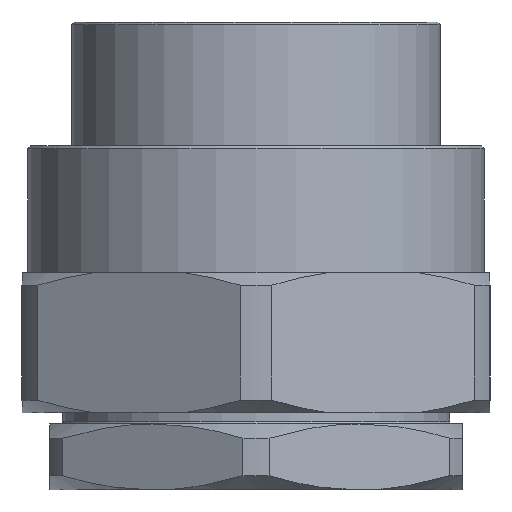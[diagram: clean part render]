
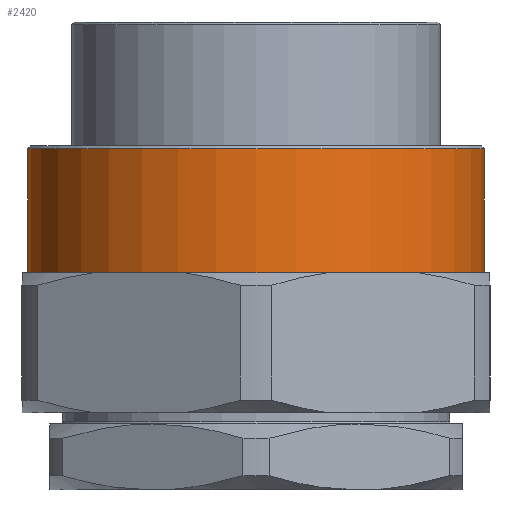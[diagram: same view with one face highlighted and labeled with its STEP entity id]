
A CAD part, front view. The second image highlights one B-rep face of the part: STEP entity #2420.
In plain terms, the highlighted cylindrical face has radius 41.5 mm (diameter 83 mm), a full revolution.
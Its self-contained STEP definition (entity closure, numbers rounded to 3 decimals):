
#1507=CARTESIAN_POINT('',(41.5,0.,39.5));
#1508=VERTEX_POINT('',#1507);
#1509=CARTESIAN_POINT('',(0.,0.,39.5));
#1510=DIRECTION('',(0.0,0.0,1.0));
#1511=DIRECTION('',(-1.0,0.0,0.0));
#1512=AXIS2_PLACEMENT_3D('',#1509,#1510,#1511);
#1513=CIRCLE('',#1512,41.5);
#1514=EDGE_CURVE('',#1508,#1508,#1513,.T.);
#2394=CARTESIAN_POINT('',(41.5,0.,62.));
#2395=VERTEX_POINT('',#2394);
#2396=CARTESIAN_POINT('',(0.,0.,62.));
#2397=DIRECTION('',(0.0,0.0,1.0));
#2398=DIRECTION('',(-1.0,0.0,0.0));
#2399=AXIS2_PLACEMENT_3D('',#2396,#2397,#2398);
#2400=CIRCLE('',#2399,41.5);
#2401=EDGE_CURVE('',#2395,#2395,#2400,.T.);
#2409=CARTESIAN_POINT('',(0.,0.,62.5));
#2410=DIRECTION('',(0.,0.,-1.0));
#2411=DIRECTION('',(-1.0,0.0,0.0));
#2412=AXIS2_PLACEMENT_3D('',#2409,#2410,#2411);
#2413=CYLINDRICAL_SURFACE('',#2412,41.5);
#2414=ORIENTED_EDGE('',*,*,#1514,.T.);
#2415=EDGE_LOOP('',(#2414));
#2416=FACE_OUTER_BOUND('',#2415,.T.);
#2417=ORIENTED_EDGE('',*,*,#2401,.F.);
#2418=EDGE_LOOP('',(#2417));
#2419=FACE_BOUND('',#2418,.T.);
#2420=ADVANCED_FACE('',(#2416,#2419),#2413,.T.);
